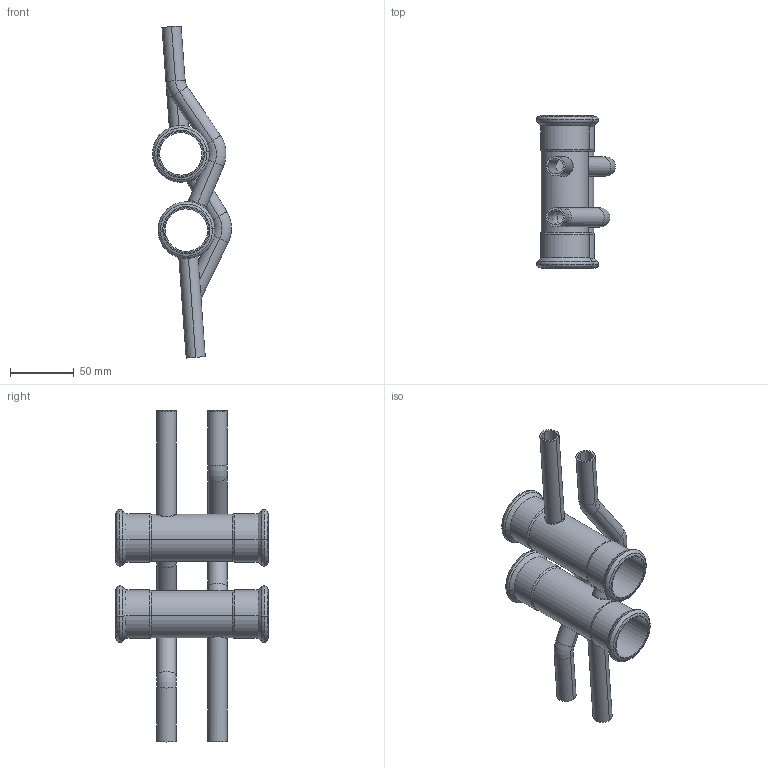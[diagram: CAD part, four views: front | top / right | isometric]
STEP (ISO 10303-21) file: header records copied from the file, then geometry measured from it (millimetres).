
FILE_DESCRIPTION(('CoCreate Modeling STEP Export'),'2;1');
FILE_NAME('C1436 35x15.stp','2015-08-13T 8:39:20',(''),(''),'CoCreate Modeling STEP processor for AP214 (Solid Model)','CoCreate Modeling 17.00A 17-Jun-2010 (C) Parametric Technology GmbH','');
FILE_SCHEMA(('AUTOMOTIVE_DESIGN { 1 0 10303 214 1 1 1 1 }'));
Length unit declared in the file: millimetre
Products named in the file (5): 620864.2.1.1.1; 620864.2.1.2; 620870.8.1.1; 620870.8.2; C1436-35x15
Assembly tree (4 placements, depth 2):
  C1436-35x15
    620870.8.2
    620870.8.1.1
    620864.2.1.2
    620864.2.1.1.1
Bounding box: 61.97 x 120 x 260.4 mm (x, y, z)
Volume: 78783.2 mm3; surface area: 97339.6 mm2
Topology: 4 solids, 4 shells, 164 faces, 356 edges, 212 vertices
Faces by surface type: cylinder 72, torus 40, cone 24, plane 20, bspline 8
Entity records: 11109 total; most frequent: CARTESIAN_POINT 7951, ORIENTED_EDGE 712, DIRECTION 538, EDGE_CURVE 356, AXIS2_PLACEMENT_3D 221, VERTEX_POINT 212, EDGE_LOOP 192, FACE_OUTER_BOUND 164
